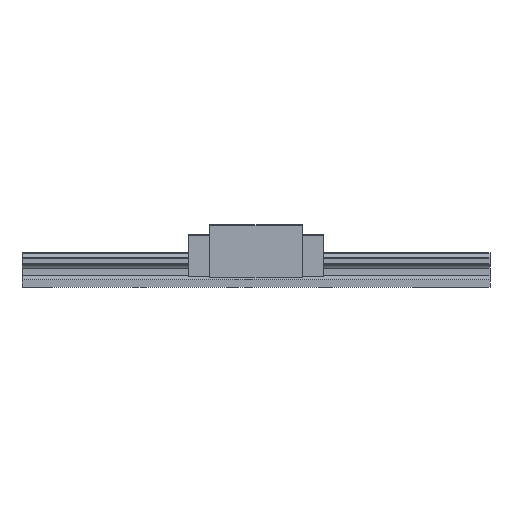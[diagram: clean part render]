
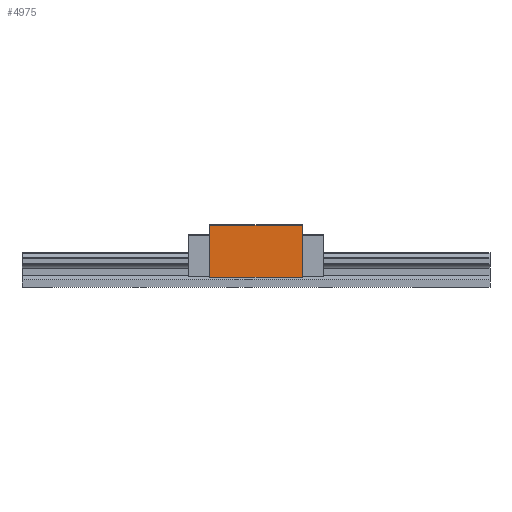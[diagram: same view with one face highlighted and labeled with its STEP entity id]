
A CAD part, front view. The second image highlights one B-rep face of the part: STEP entity #4975.
In plain terms, the highlighted planar face has unit normal (0, -1, 0).
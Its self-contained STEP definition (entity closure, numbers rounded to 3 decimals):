
#87 = CARTESIAN_POINT ( 'NONE',  ( 59., -50., 13. ) ) ;
#100 = CARTESIAN_POINT ( 'NONE',  ( -59., -50., 80. ) ) ;
#152 = EDGE_CURVE ( 'NONE', #4494, #1085, #3925, .T. ) ;
#202 = PLANE ( 'NONE',  #2281 ) ;
#276 = VERTEX_POINT ( 'NONE', #3302 ) ;
#428 = EDGE_CURVE ( 'NONE', #2575, #276, #3451, .T. ) ;
#472 = VECTOR ( 'NONE', #1063, 1000. ) ;
#533 = CARTESIAN_POINT ( 'NONE',  ( -59., -50., 13. ) ) ;
#687 = ORIENTED_EDGE ( 'NONE', *, *, #1169, .F. ) ;
#1063 = DIRECTION ( 'NONE',  ( -1., 0., 0. ) ) ;
#1085 = VERTEX_POINT ( 'NONE', #533 ) ;
#1169 = EDGE_CURVE ( 'NONE', #2575, #4494, #1340, .T. ) ;
#1273 = DIRECTION ( 'NONE',  ( 0., 1., 0. ) ) ;
#1340 = LINE ( 'NONE', #2926, #2136 ) ;
#1721 = DIRECTION ( 'NONE',  ( -1., 0., 0. ) ) ;
#1788 = CARTESIAN_POINT ( 'NONE',  ( 59., -50., 80. ) ) ;
#2136 = VECTOR ( 'NONE', #4506, 1000. ) ;
#2281 = AXIS2_PLACEMENT_3D ( 'NONE', #1788, #1273, #2855 ) ;
#2304 = EDGE_LOOP ( 'NONE', ( #687, #3814, #2660, #3891 ) ) ;
#2545 = DIRECTION ( 'NONE',  ( 0., 0., -1. ) ) ;
#2575 = VERTEX_POINT ( 'NONE', #2794 ) ;
#2660 = ORIENTED_EDGE ( 'NONE', *, *, #3649, .T. ) ;
#2794 = CARTESIAN_POINT ( 'NONE',  ( 59., -50., 79.5 ) ) ;
#2795 = VECTOR ( 'NONE', #1721, 1000. ) ;
#2855 = DIRECTION ( 'NONE',  ( 1., 0., 0. ) ) ;
#2868 = VECTOR ( 'NONE', #2545, 1000. ) ;
#2926 = CARTESIAN_POINT ( 'NONE',  ( 59., -50., 80. ) ) ;
#3302 = CARTESIAN_POINT ( 'NONE',  ( -59., -50., 79.5 ) ) ;
#3318 = LINE ( 'NONE', #100, #2868 ) ;
#3451 = LINE ( 'NONE', #4624, #472 ) ;
#3649 = EDGE_CURVE ( 'NONE', #276, #1085, #3318, .T. ) ;
#3758 = FACE_OUTER_BOUND ( 'NONE', #2304, .T. ) ;
#3814 = ORIENTED_EDGE ( 'NONE', *, *, #428, .T. ) ;
#3891 = ORIENTED_EDGE ( 'NONE', *, *, #152, .F. ) ;
#3925 = LINE ( 'NONE', #87, #2795 ) ;
#4494 = VERTEX_POINT ( 'NONE', #4868 ) ;
#4506 = DIRECTION ( 'NONE',  ( 0., 0., -1. ) ) ;
#4624 = CARTESIAN_POINT ( 'NONE',  ( 59., -50., 79.5 ) ) ;
#4868 = CARTESIAN_POINT ( 'NONE',  ( 59., -50., 13. ) ) ;
#4975 = ADVANCED_FACE ( 'NONE', ( #3758 ), #202, .F. ) ;
